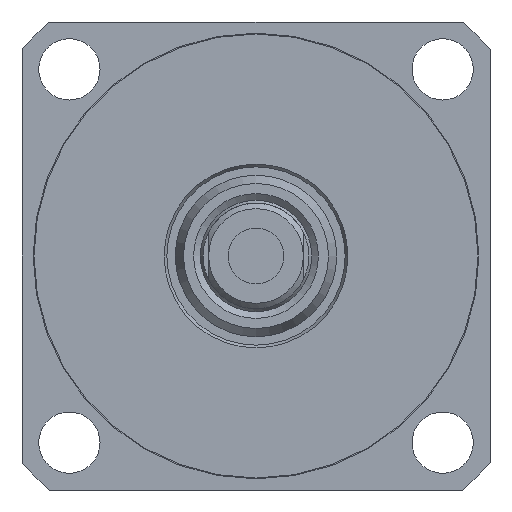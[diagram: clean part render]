
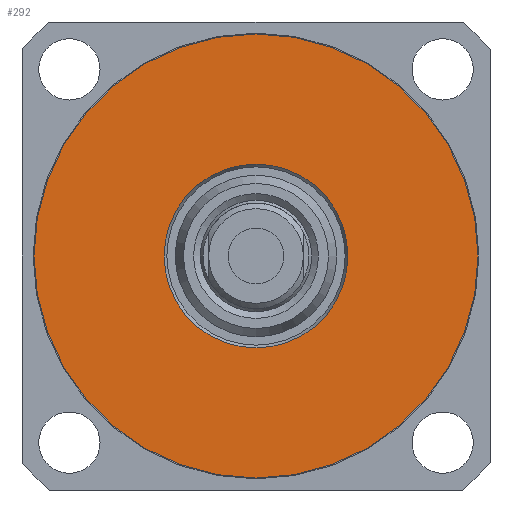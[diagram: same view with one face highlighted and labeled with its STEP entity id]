
A CAD part, front view. The second image highlights one B-rep face of the part: STEP entity #292.
In plain terms, the highlighted planar face has unit normal (0, -1, 0).
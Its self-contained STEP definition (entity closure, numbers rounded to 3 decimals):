
#292 = ADVANCED_FACE( '', ( #596, #597 ), #598, .T. );
#596 = FACE_OUTER_BOUND( '', #1263, .T. );
#597 = FACE_BOUND( '', #1264, .T. );
#598 = PLANE( '', #1265 );
#1263 = EDGE_LOOP( '', ( #2015 ) );
#1264 = EDGE_LOOP( '', ( #2016 ) );
#1265 = AXIS2_PLACEMENT_3D( '', #2017, #2018, #2019 );
#2015 = ORIENTED_EDGE( '', *, *, #4066, .T. );
#2016 = ORIENTED_EDGE( '', *, *, #4067, .F. );
#2017 = CARTESIAN_POINT( '', ( 0., -70.5, 0. ) );
#2018 = DIRECTION( '', ( 0., -1., 0. ) );
#2019 = DIRECTION( '', ( 1., 0., 0. ) );
#4066 = EDGE_CURVE( '', #4782, #4782, #4783, .T. );
#4067 = EDGE_CURVE( '', #4784, #4784, #4785, .T. );
#4782 = VERTEX_POINT( '', #5929 );
#4783 = CIRCLE( '', #5930, 39.85 );
#4784 = VERTEX_POINT( '', #5931 );
#4785 = CIRCLE( '', #5932, 16.5 );
#5929 = CARTESIAN_POINT( '', ( -39.85, -70.5, 0. ) );
#5930 = AXIS2_PLACEMENT_3D( '', #7444, #7445, #7446 );
#5931 = CARTESIAN_POINT( '', ( 0., -70.5, 16.5 ) );
#5932 = AXIS2_PLACEMENT_3D( '', #7447, #7448, #7449 );
#7444 = CARTESIAN_POINT( '', ( 0., -70.5, 0. ) );
#7445 = DIRECTION( '', ( 0., -1., 0. ) );
#7446 = DIRECTION( '', ( -1., 0., 0. ) );
#7447 = CARTESIAN_POINT( '', ( 0., -70.5, 0. ) );
#7448 = DIRECTION( '', ( 0., -1., 0. ) );
#7449 = DIRECTION( '', ( 0., 0., 1. ) );
